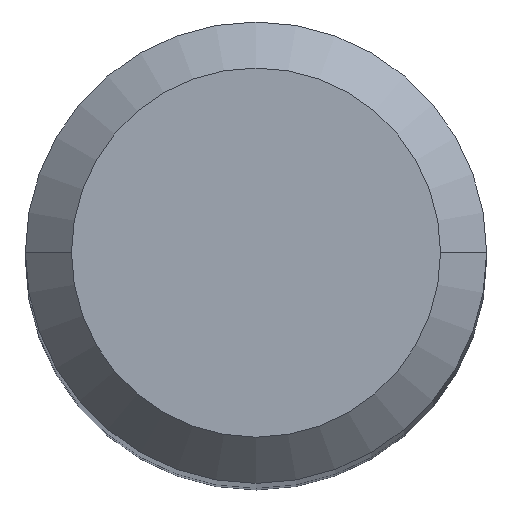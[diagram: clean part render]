
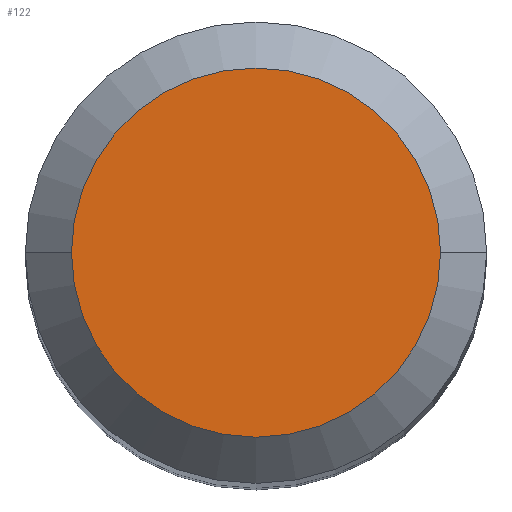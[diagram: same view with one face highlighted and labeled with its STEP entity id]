
A CAD part, top view. The second image highlights one B-rep face of the part: STEP entity #122.
In plain terms, the highlighted planar face has unit normal (0, 0, 1).
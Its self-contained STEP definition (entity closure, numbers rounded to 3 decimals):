
#28 = DIRECTION ( 'NONE',  ( 0., 0., -1. ) ) ;
#36 = ORIENTED_EDGE ( 'NONE', *, *, #365, .F. ) ;
#37 = CARTESIAN_POINT ( 'NONE',  ( -4.2, 0., 0. ) ) ;
#68 = CIRCLE ( 'NONE', #341, 4.2 ) ;
#91 = DIRECTION ( 'NONE',  ( 0., 0., 1. ) ) ;
#96 = VERTEX_POINT ( 'NONE', #387 ) ;
#106 = DIRECTION ( 'NONE',  ( 0., 0., -1. ) ) ;
#122 = ADVANCED_FACE ( 'NONE', ( #360 ), #206, .T. ) ;
#140 = AXIS2_PLACEMENT_3D ( 'NONE', #251, #28, #212 ) ;
#196 = CIRCLE ( 'NONE', #140, 4.2 ) ;
#206 = PLANE ( 'NONE',  #285 ) ;
#212 = DIRECTION ( 'NONE',  ( -1., 0., 0. ) ) ;
#251 = CARTESIAN_POINT ( 'NONE',  ( 0., 0., 0. ) ) ;
#275 = DIRECTION ( 'NONE',  ( 1., 0., 0. ) ) ;
#285 = AXIS2_PLACEMENT_3D ( 'NONE', #330, #91, #275 ) ;
#304 = EDGE_CURVE ( 'NONE', #96, #316, #196, .T. ) ;
#316 = VERTEX_POINT ( 'NONE', #37 ) ;
#321 = DIRECTION ( 'NONE',  ( -1., 0., 0. ) ) ;
#330 = CARTESIAN_POINT ( 'NONE',  ( 0., 4.2, 0. ) ) ;
#341 = AXIS2_PLACEMENT_3D ( 'NONE', #354, #106, #321 ) ;
#354 = CARTESIAN_POINT ( 'NONE',  ( 0., 0., 0. ) ) ;
#360 = FACE_OUTER_BOUND ( 'NONE', #374, .T. ) ;
#365 = EDGE_CURVE ( 'NONE', #316, #96, #68, .T. ) ;
#370 = ORIENTED_EDGE ( 'NONE', *, *, #304, .F. ) ;
#374 = EDGE_LOOP ( 'NONE', ( #36, #370 ) ) ;
#387 = CARTESIAN_POINT ( 'NONE',  ( 4.2, 0., 0. ) ) ;
